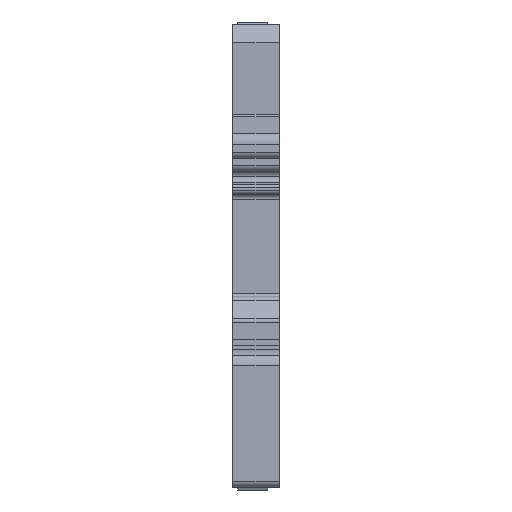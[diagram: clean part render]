
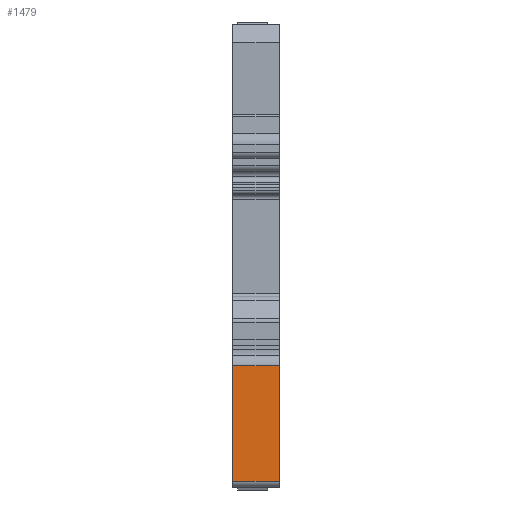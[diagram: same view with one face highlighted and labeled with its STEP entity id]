
A CAD part, left-side view. The second image highlights one B-rep face of the part: STEP entity #1479.
In plain terms, the highlighted planar face has unit normal (-1, 0, 0).
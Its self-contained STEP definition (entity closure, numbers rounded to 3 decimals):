
#1479=ADVANCED_FACE('',(#23654),#23656,.T.);
#23654=FACE_BOUND('',#23655,.T.);
#23655=EDGE_LOOP('',(#41772,#41773,#41774,#41775));
#23656=PLANE('',#23657);
#23657=AXIS2_PLACEMENT_3D('',#23658,#23659,#23660);
#23658=CARTESIAN_POINT('',(0.,0.,1.));
#23659=DIRECTION('',(-1.,0.,0.));
#23660=DIRECTION('',(0.,0.,1.));
#41772=ORIENTED_EDGE('',*,*,#55618,.T.);
#41773=ORIENTED_EDGE('',*,*,#55754,.T.);
#41774=ORIENTED_EDGE('',*,*,#55061,.F.);
#41775=ORIENTED_EDGE('',*,*,#55753,.F.);
#55061=EDGE_CURVE('',#62549,#62551,#62552,.T.);
#55618=EDGE_CURVE('',#63631,#63629,#63632,.T.);
#55753=EDGE_CURVE('',#63631,#62549,#63881,.T.);
#55754=EDGE_CURVE('',#63629,#62551,#63882,.T.);
#62549=VERTEX_POINT('',#75368);
#62551=VERTEX_POINT('',#75373);
#62552=LINE('',#75374,#75375);
#63629=VERTEX_POINT('',#77756);
#63631=VERTEX_POINT('',#77761);
#63632=LINE('',#77762,#77763);
#63881=LINE('',#78313,#78314);
#63882=LINE('',#78316,#78317);
#75368=CARTESIAN_POINT('',(0.,8.,1.));
#75373=CARTESIAN_POINT('',(0.,8.,20.97));
#75374=CARTESIAN_POINT('',(0.,8.,1.));
#75375=VECTOR('',#75376,1.);
#75376=DIRECTION('',(0.,0.,1.));
#77756=CARTESIAN_POINT('',(0.,0.,20.97));
#77761=CARTESIAN_POINT('',(0.,0.,1.));
#77762=CARTESIAN_POINT('',(0.,0.,1.));
#77763=VECTOR('',#77764,1.);
#77764=DIRECTION('',(0.,0.,1.));
#78313=CARTESIAN_POINT('',(0.,0.,1.));
#78314=VECTOR('',#78315,1.);
#78315=DIRECTION('',(0.,1.,0.));
#78316=CARTESIAN_POINT('',(0.,0.,20.97));
#78317=VECTOR('',#78318,1.);
#78318=DIRECTION('',(0.,1.,0.));
